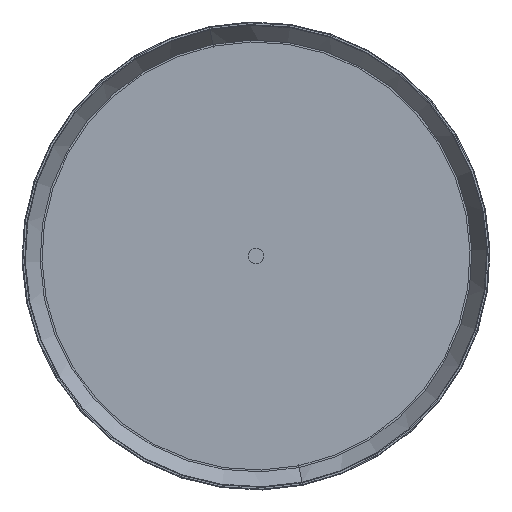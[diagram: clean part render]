
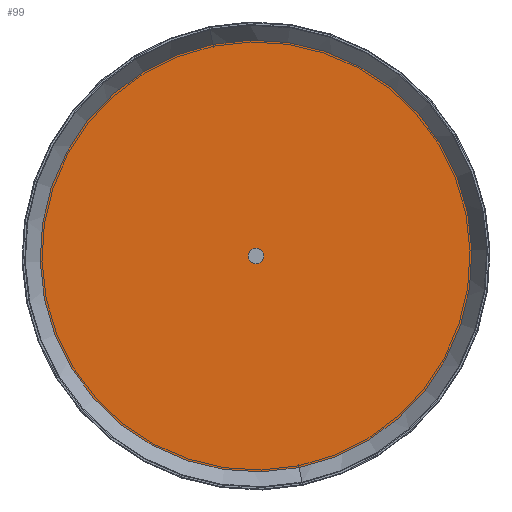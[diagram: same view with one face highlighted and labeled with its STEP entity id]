
A CAD part, front view. The second image highlights one B-rep face of the part: STEP entity #99.
In plain terms, the highlighted planar face has unit normal (0, -1, 0).
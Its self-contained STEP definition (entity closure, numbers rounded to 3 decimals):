
#76 = CARTESIAN_POINT ( 'NONE',  ( 0., 15., 0. ) ) ;
#93 = CARTESIAN_POINT ( 'NONE',  ( 138., 15., 0. ) ) ;
#99 = ADVANCED_FACE ( 'NONE', ( #791 ), #884, .F. ) ;
#114 = AXIS2_PLACEMENT_3D ( 'NONE', #76, #800, #545 ) ;
#154 = VERTEX_POINT ( 'NONE', #93 ) ;
#247 = EDGE_CURVE ( 'NONE', #831, #154, #706, .T. ) ;
#256 = EDGE_LOOP ( 'NONE', ( #712, #333 ) ) ;
#284 = DIRECTION ( 'NONE',  ( 0., -1., 0. ) ) ;
#333 = ORIENTED_EDGE ( 'NONE', *, *, #247, .T. ) ;
#443 = AXIS2_PLACEMENT_3D ( 'NONE', #587, #284, #837 ) ;
#474 = CARTESIAN_POINT ( 'NONE',  ( -138., 15., 0. ) ) ;
#545 = DIRECTION ( 'NONE',  ( 1., 0., 0. ) ) ;
#558 = DIRECTION ( 'NONE',  ( -1., 0., 0. ) ) ;
#587 = CARTESIAN_POINT ( 'NONE',  ( 0., 15., 0. ) ) ;
#706 = CIRCLE ( 'NONE', #443, 138. ) ;
#711 = AXIS2_PLACEMENT_3D ( 'NONE', #814, #726, #558 ) ;
#712 = ORIENTED_EDGE ( 'NONE', *, *, #802, .T. ) ;
#726 = DIRECTION ( 'NONE',  ( 0., 1., 0. ) ) ;
#791 = FACE_OUTER_BOUND ( 'NONE', #256, .T. ) ;
#800 = DIRECTION ( 'NONE',  ( 0., -1., 0. ) ) ;
#802 = EDGE_CURVE ( 'NONE', #154, #831, #1007, .T. ) ;
#814 = CARTESIAN_POINT ( 'NONE',  ( -138., 15., 0. ) ) ;
#831 = VERTEX_POINT ( 'NONE', #474 ) ;
#837 = DIRECTION ( 'NONE',  ( 1., 0., 0. ) ) ;
#884 = PLANE ( 'NONE',  #711 ) ;
#1007 = CIRCLE ( 'NONE', #114, 138. ) ;
